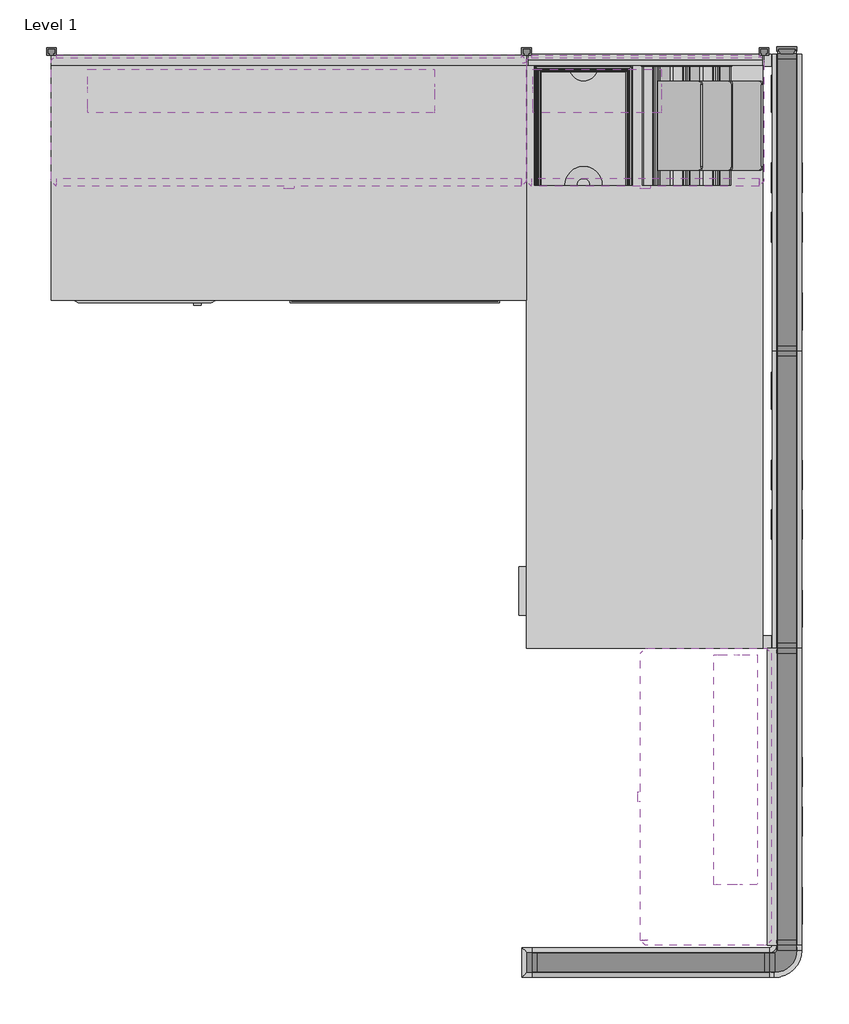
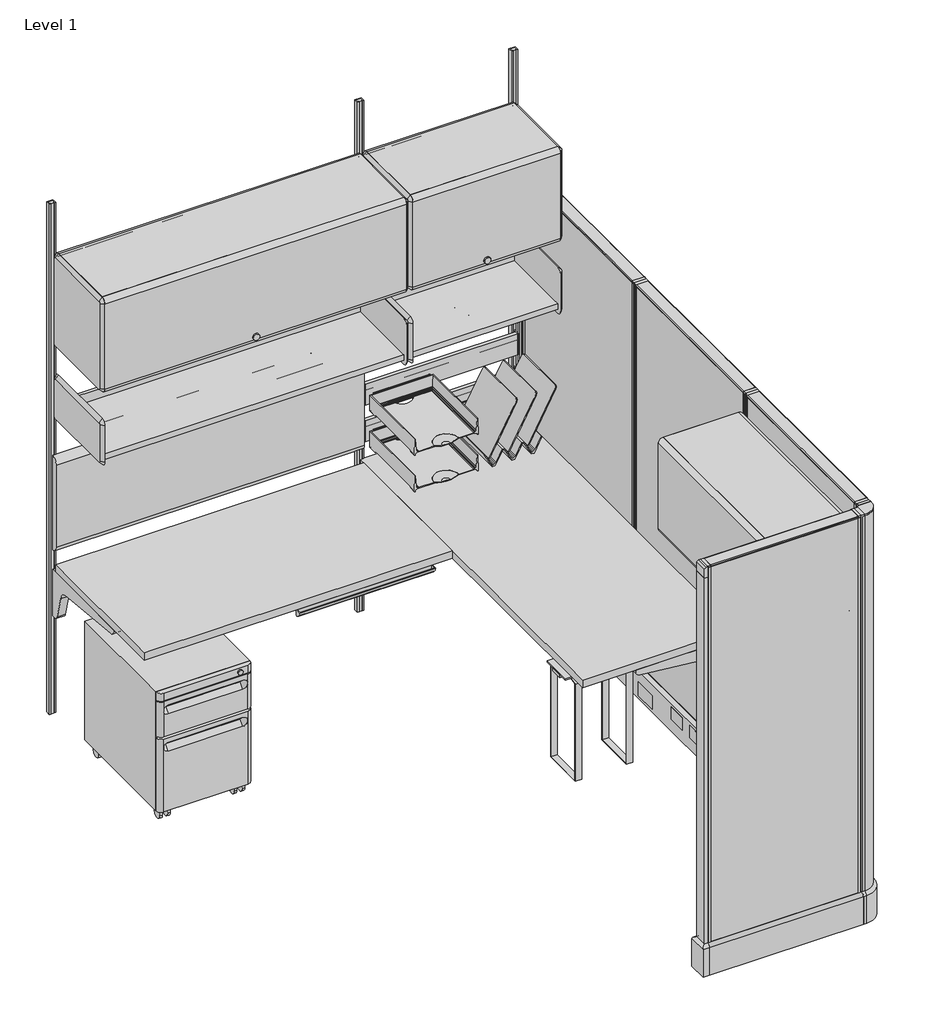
# One storey, incomplete: 27 furniture elements, 3 light fixtures.
"""IFC4 building model written with IfcOpenShell, lengths in millimetres."""

from ifc_helpers import new_model, si_unit, origin, place, context, project, spatial, transform, mapped, element, save
from components import furniture_84c54a78, furniture_d54c757f, furniture_75fc3fe0, furniture_a2665887, furniture_baef4f76, furniture_cbd01bae, furniture_02a821be, furniture_a96273da, furniture_cb78dd66, furniture_083a197f, furniture_6a59721d, furniture_2520e590, furniture_ae017f2a, furniture_33cd207f, furniture_d9179111, furniture_fea97cc0, furniture_8e6c5b72, furniture_3b64b56a, furniture_2208834e, furniture_5c2546f9, furniture_ba981915, furniture_ea425779, vertical_8d45c77d, light_fixture_d29e1486, light_fixture_6c250f8a, light_fixture_d8c8fe2c

model = new_model("IFC4")

# Units and contexts
model_context = context("Model", 3, world=origin())
ifc_project = project(units=[si_unit("LENGTHUNIT", "METRE", prefix="MILLI")], contexts=[model_context])

# Site, building, storey
site = spatial("IfcSite", under=ifc_project)
building = spatial("IfcBuilding", under=site)
storey = spatial("IfcBuildingStorey", under=building, Name="Level 1", Elevation=0.0)

# Furniture
placement = place(None, origin())
furniture_shape = furniture_84c54a78(model_context)
element("IfcFurniture", 1, ObjectType="HermanMiller_QuadrantFiling_G5111_MobilePedestal : 21-1/2\"H x 20\"D x 15\"W BF", at=placement, inside=storey, context=model_context, shape_type="MappedRepresentation", body=[
    mapped(furniture_shape, transform((239.44326, -390.382763, 0.0), x_axis=(1.0, 0.0, 0.0), y_axis=(0.0, 1.0, 0.0), z_axis=(0.0, 0.0, 1.0))),
])
furniture_2_shape = furniture_d54c757f(model_context)
element("IfcFurniture", 2, ObjectType="HermanMiller_ThrivePortfolio_Y5010_PencilDrawer : 2\"H x 16\"D x 21\"W", at=placement, inside=storey, context=model_context, shape_type="MappedRepresentation", body=[
    mapped(furniture_2_shape, transform((880.87454, -447.21526, 0.0), x_axis=(1.0, 0.0, 0.0), y_axis=(0.0, 1.0, 0.0), z_axis=(0.0, 0.0, 1.0))),
])
furniture_3_shape = furniture_75fc3fe0(model_context)
element("IfcFurniture", 3, ObjectType="HermanMiller_ThrivePortfolio_Y7218_DiagonalTray : 8 1/2\"H x 12\"D x 13\"W", at=placement, inside=storey, context=model_context, shape_type="MappedRepresentation", body=[
    mapped(furniture_3_shape, transform((1630.016817, -198.47052, 0.0), x_axis=(1.0, 0.0, 0.0), y_axis=(0.0, 1.0, 0.0), z_axis=(0.0, 0.0, 1.0))),
])
furniture_4_shape = furniture_a2665887(model_context)
element("IfcFurniture", 4, ObjectType="HermanMiller_ThrivePortfolio_Y7216_PaperTray : 3\"H x 12\"D x 10\"W", at=placement, inside=storey, context=model_context, shape_type="MappedRepresentation", body=[
    mapped(furniture_4_shape, transform((1365.4024, -198.47052, 0.0), x_axis=(1.0, 0.0, 0.0), y_axis=(0.0, 1.0, 0.0), z_axis=(0.0, 0.0, 1.0))),
])
furniture_5_shape = furniture_baef4f76(model_context)
element("IfcFurniture", 5, ObjectType="HermanMiller_ThrivePortfolio_Y7216_PaperTray : 3\"H x 12\"D x 10\"W", at=placement, inside=storey, context=model_context, shape_type="MappedRepresentation", body=[
    mapped(furniture_5_shape, transform((1365.4024, -198.47052, 0.0), x_axis=(1.0, 0.0, 0.0), y_axis=(0.0, 1.0, 0.0), z_axis=(0.0, 0.0, 1.0))),
])
furniture_6_shape = furniture_cbd01bae(model_context)
element("IfcFurniture", 6, ObjectType="HermanMiller_ActionOffice_A3352_B-StyleFlipperDoorUnit : 15 1/2\"H x 13\"D x 30\"W", at=placement, inside=storey, context=model_context, shape_type="MappedRepresentation", body=[
    mapped(furniture_6_shape, transform((1666.875, -1921.12392, 0.0), x_axis=(0.0, -1.0, 0.0), y_axis=(1.0, 0.0, 0.0), z_axis=(0.0, 0.0, 1.0))),
])
furniture_7_shape = furniture_02a821be(model_context)
element("IfcFurniture", 7, ObjectType="HermanMiller_ActionOffice_A3410_B-StyleTackboard : 16\"H x 30\"W", at=placement, inside=storey, context=model_context, shape_type="MappedRepresentation", body=[
    mapped(furniture_7_shape, transform((1849.4375, -1921.12392, 0.0), x_axis=(0.0, -1.0, 0.0), y_axis=(1.0, 0.0, 0.0), z_axis=(0.0, 0.0, 1.0))),
])
furniture_8_shape = furniture_a96273da(model_context)
element("IfcFurniture", 8, ObjectType="HermanMiller_ActionOffice_A2310_Sq-EdgeRectangularWorkSurface : 24\"D x 60\"W", at=placement, inside=storey, context=model_context, shape_type="MappedRepresentation", body=[
    mapped(furniture_8_shape, transform((1533.525, -778.12392, 0.0), x_axis=(0.0, -1.0, 0.0), y_axis=(1.0, 0.0, 0.0), z_axis=(0.0, 0.0, 1.0))),
])
furniture_9_shape = furniture_cb78dd66(model_context)
element("IfcFurniture", 9, ObjectType="HermanMiller_ActionOffice_A3410_B-StyleTackboard : 16\"H x 48\"W", at=placement, inside=storey, context=model_context, shape_type="MappedRepresentation", body=[
    mapped(furniture_9_shape, transform((609.6, -31.75, 0.0), x_axis=(1.0, 0.0, 0.0), y_axis=(0.0, 1.0, 0.0), z_axis=(0.0, 0.0, 1.0))),
])
furniture_10_shape = furniture_083a197f(model_context)
element("IfcFurniture", 10, ObjectType="HermanMiller_ActionOffice_A2310_Sq-EdgeRectangularWorkSurface : 24\"D x 48\"W", at=placement, inside=storey, context=model_context, shape_type="MappedRepresentation", body=[
    mapped(furniture_10_shape, transform((609.6, -333.375, 0.0), x_axis=(1.0, 0.0, 0.0), y_axis=(0.0, 1.0, 0.0), z_axis=(0.0, 0.0, 1.0))),
])
furniture_11_shape = furniture_6a59721d(model_context)
element("IfcFurniture", 11, ObjectType="HermanMiller_ActionOffice_A3610_ToolBar : 4\"H x 24\"W", at=placement, inside=storey, context=model_context, shape_type="MappedRepresentation", body=[
    mapped(furniture_11_shape, transform((1524.0, -31.7499996, 0.0), x_axis=(1.0, 0.0, 0.0), y_axis=(0.0, 1.0, 0.0), z_axis=(0.0, 0.0, 1.0))),
])
furniture_12_shape = furniture_2520e590(model_context)
element("IfcFurniture", 12, ObjectType="HermanMiller_ActionOffice_A3610_ToolBar : 4\"H x 24\"W", at=placement, inside=storey, context=model_context, shape_type="MappedRepresentation", body=[
    mapped(furniture_12_shape, transform((1524.0, -31.7499996, 0.0), x_axis=(1.0, 0.0, 0.0), y_axis=(0.0, 1.0, 0.0), z_axis=(0.0, 0.0, 1.0))),
])
furniture_13_shape = furniture_ae017f2a(model_context)
element("IfcFurniture", 13, ObjectType="HermanMiller_ActionOffice_A3220_B-StyleStorageDisplay : Shelf 13\"D x 24\"W", at=placement, inside=storey, context=model_context, shape_type="MappedRepresentation", body=[
    mapped(furniture_13_shape, transform((1647.9420045, -200.025, 0.0), x_axis=(1.0, 0.0, 0.0), y_axis=(0.0, 1.0, 0.0), z_axis=(0.0, 0.0, 1.0))),
])
furniture_14_shape = furniture_33cd207f(model_context)
element("IfcFurniture", 14, ObjectType="HermanMiller_ActionOffice_A3352_B-StyleFlipperDoorUnit : 15 1/2\"H x 13\"D x 48\"W", at=placement, inside=storey, context=model_context, shape_type="MappedRepresentation", body=[
    mapped(furniture_14_shape, transform((609.6, -200.025, 0.0), x_axis=(1.0, 0.0, 0.0), y_axis=(0.0, 1.0, 0.0), z_axis=(0.0, 0.0, 1.0))),
])
furniture_15_shape = furniture_d9179111(model_context)
element("IfcFurniture", 15, ObjectType="HermanMiller_ActionOffice_A3220_B-StyleStorageDisplay : Shelf 13\"D x 48\"W", at=placement, inside=storey, context=model_context, shape_type="MappedRepresentation", body=[
    mapped(furniture_15_shape, transform((733.5420045, -200.025, 0.0), x_axis=(1.0, 0.0, 0.0), y_axis=(0.0, 1.0, 0.0), z_axis=(0.0, 0.0, 1.0))),
])
furniture_16_shape = furniture_fea97cc0(model_context)
element("IfcFurniture", 16, ObjectType="HermanMiller_ActionOffice_A3352_B-StyleFlipperDoorUnit : 15 1/2\"H x 13\"D x 24\"W", at=placement, inside=storey, context=model_context, shape_type="MappedRepresentation", body=[
    mapped(furniture_16_shape, transform((1524.0, -200.025, 0.0), x_axis=(1.0, 0.0, 0.0), y_axis=(0.0, 1.0, 0.0), z_axis=(0.0, 0.0, 1.0))),
])
furniture_17_shape = furniture_8e6c5b72(model_context)
element("IfcFurniture", 17, ObjectType="HermanMiller_ActionOffice_A1110_Hard-SurfacedPanelStandardBase : 67\"H x 24\"W-N", at=placement, inside=storey, context=model_context, shape_type="MappedRepresentation", body=[
    mapped(furniture_17_shape, transform((1538.2875, -2346.5732857, 0.0), x_axis=(-1.0, 0.0, 0.0), y_axis=(0.0, -1.0, 0.0), z_axis=(0.0, 0.0, 1.0))),
])
furniture_18_shape = furniture_3b64b56a(model_context)
element("IfcFurniture", 18, ObjectType="HermanMiller_ActionOffice_A1110_Hard-SurfacedPanelStandardBase : 67\"H x 30\"W-G", at=placement, inside=storey, context=model_context, shape_type="MappedRepresentation", body=[
    mapped(furniture_18_shape, transform((1887.5375, -1921.12392, 0.0), x_axis=(0.0, -1.0, 0.0), y_axis=(1.0, 0.0, 0.0), z_axis=(0.0, 0.0, 1.0))),
])
element("IfcFurniture", 19, ObjectType="HermanMiller_ActionOffice_A1110_Hard-SurfacedPanelStandardBase : 67\"H x 30\"W-G", at=placement, inside=storey, context=model_context, shape_type="MappedRepresentation", body=[
    mapped(furniture_18_shape, transform((1887.5375, -1159.12392, 0.0), x_axis=(0.0, -1.0, 0.0), y_axis=(1.0, 0.0, 0.0), z_axis=(0.0, 0.0, 1.0))),
])
element("IfcFurniture", 20, ObjectType="HermanMiller_ActionOffice_A1110_Hard-SurfacedPanelStandardBase : 67\"H x 30\"W-G", at=placement, inside=storey, context=model_context, shape_type="MappedRepresentation", body=[
    mapped(furniture_18_shape, transform((1887.5375, -397.12392, 0.0), x_axis=(0.0, -1.0, 0.0), y_axis=(1.0, 0.0, 0.0), z_axis=(0.0, 0.0, 1.0))),
])
furniture_19_shape = furniture_2208834e(model_context)
element("IfcFurniture", 21, ObjectType="HermanMiller_ActionOffice_AO210_WallStart : 62\"H", at=placement, inside=storey, context=model_context, shape_type="MappedRepresentation", body=[
    mapped(furniture_19_shape, transform((381.1370053, -40.1872459, 0.0), x_axis=(0.0, 1.0, 0.0), y_axis=(-1.0, 0.0, 0.0), z_axis=(0.0, 0.0, 1.0))),
])
furniture_20_shape = furniture_5c2546f9(model_context)
element("IfcFurniture", 22, ObjectType="HermanMiller_ActionOffice_A1271_FinishedEndStandardBase : 67\"H", at=placement, inside=storey, context=model_context, shape_type="MappedRepresentation", body=[
    mapped(furniture_20_shape, transform((3218.3435512, -4795.3120733, 0.0), x_axis=(-1.0, 0.0, 0.0), y_axis=(0.0, -1.0, 0.0), z_axis=(0.0, 0.0, 1.0))),
])
furniture_21_shape = furniture_ba981915(model_context)
element("IfcFurniture", 23, ObjectType="HermanMiller_ActionOffice_A1220_90ConnectorStandardBase : 67\"H 2-Way-Hard", at=placement, inside=storey, context=model_context, shape_type="MappedRepresentation", body=[
    mapped(furniture_21_shape, transform((1873.0235586, -2340.22392, 0.0), x_axis=(0.0, -1.0, 0.0), y_axis=(1.0, 0.0, 0.0), z_axis=(0.0, 0.0, 1.0))),
])
furniture_22_shape = furniture_ea425779(model_context)
element("IfcFurniture", 24, ObjectType="HermanMiller_ActionOffice_AO213_WallStrip : 84\"H", at=placement, inside=storey, context=model_context, shape_type="MappedRepresentation", body=[
    mapped(furniture_22_shape, transform((0.0, 0.0, 0.0), x_axis=(1.0, 0.0, 0.0), y_axis=(0.0, 1.0, 0.0), z_axis=(0.0, 0.0, 1.0))),
])
element("IfcFurniture", 25, ObjectType="HermanMiller_ActionOffice_AO213_WallStrip : 84\"H", at=placement, inside=storey, context=model_context, shape_type="MappedRepresentation", body=[
    mapped(furniture_22_shape, transform((1828.8, 0.0, 0.0), x_axis=(1.0, 0.0, 0.0), y_axis=(0.0, 1.0, 0.0), z_axis=(0.0, 0.0, 1.0))),
])
element("IfcFurniture", 26, ObjectType="HermanMiller_ActionOffice_AO213_WallStrip : 84\"H", at=placement, inside=storey, context=model_context, shape_type="MappedRepresentation", body=[
    mapped(furniture_22_shape, transform((1219.2, 0.0, 0.0), x_axis=(1.0, 0.0, 0.0), y_axis=(0.0, 1.0, 0.0), z_axis=(0.0, 0.0, 1.0))),
])
vertical_shape = vertical_8d45c77d(model_context)
element("IfcFurniture", 27, ObjectType="HermanMiller_ThrivePortfolio_Y7813_CPUHolder : Vertical", at=placement, inside=storey, context=model_context, shape_type="MappedRepresentation", body=[
    mapped(vertical_shape, transform((1339.85, -1393.3539442, 0.0), x_axis=(0.0, -1.0, 0.0), y_axis=(1.0, 0.0, 0.0), z_axis=(0.0, 0.0, 1.0))),
])

# Light fixtures
light_fixture_shape = light_fixture_d29e1486(model_context)
element("IfcLightFixture", 28, ObjectType="HermanMiller_SupplementalProducts_G6136_UtilityTaskLight : AO Etho Canvas 42W", at=placement, inside=storey, context=model_context, shape_type="MappedRepresentation", body=[
    mapped(light_fixture_shape, transform((537.718, -111.125, 0.0), x_axis=(1.0, 0.0, 0.0), y_axis=(0.0, 1.0, 0.0), z_axis=(0.0, 0.0, 1.0))),
])
light_fixture_2_shape = light_fixture_6c250f8a(model_context)
element("IfcLightFixture", 29, ObjectType="HermanMiller_SupplementalProducts_G6136_UtilityTaskLight : AO Etho Canvas 24W", at=placement, inside=storey, context=model_context, shape_type="MappedRepresentation", body=[
    mapped(light_fixture_2_shape, transform((1400.429, -111.125, 0.0), x_axis=(1.0, 0.0, 0.0), y_axis=(0.0, 1.0, 0.0), z_axis=(0.0, 0.0, 1.0))),
])
light_fixture_3_shape = light_fixture_d8c8fe2c(model_context)
element("IfcLightFixture", 30, ObjectType="HermanMiller_SupplementalProducts_G6136_UtilityTaskLight : AO Etho Canvas 30W", at=placement, inside=storey, context=model_context, shape_type="MappedRepresentation", body=[
    mapped(light_fixture_3_shape, transform((1755.775, -1851.65746, 0.0), x_axis=(0.0, -1.0, 0.0), y_axis=(1.0, 0.0, 0.0), z_axis=(0.0, 0.0, 1.0))),
])

save(model, "model.ifc")
